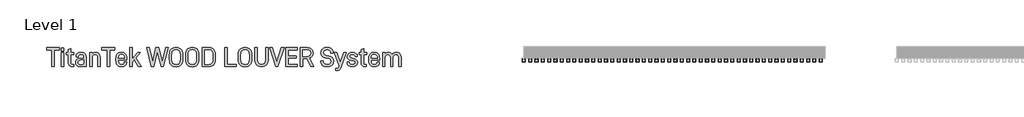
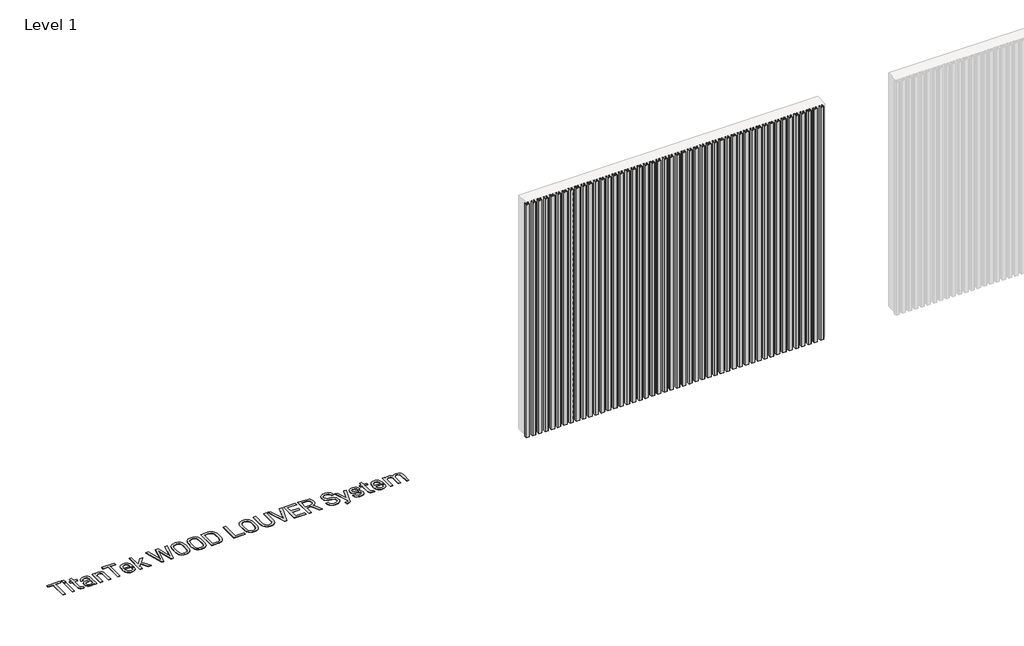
# One storey, part 30 of 33: 2 proxies.
"""IFC4 building model written with IfcOpenShell, lengths in millimetres."""

from ifc_helpers import new_model, si_unit, origin, origin_with_axes, place, context, project, spatial, polyline, outline, extrude, transform, mapped, element, save
from components import titantek_wood_louver_system_aluminum_slate_gray_186ec220

model = new_model("IFC4")

# Units and contexts
model_context = context("Model", 3, world=origin())
ifc_project = project(units=[si_unit("LENGTHUNIT", "METRE", prefix="MILLI")], contexts=[model_context])

# Site, building, storey
site = spatial("IfcSite", under=ifc_project)
building = spatial("IfcBuilding", under=site)
storey = spatial("IfcBuildingStorey", under=building, Name="Level 1", Elevation=0.0)

# Proxies
placement = place(None, origin())
element("IfcBuildingElementProxy", 1, Name="600mm Arial 2", ObjectType="600mm Arial 2", at=placement, inside=storey, context=model_context, shape_type="SweptSolid", body=[
    extrude(outline(polyline([(-9914.9924556, 117220.4128343), (-9914.9924556, 116952.9873502), (-9954.4439015, 116952.9873502), (-9954.4439015, 117220.4128343), (-10038.8787304, 117220.4128343), (-10038.8787304, 117257.3166776), (-9830.5576267, 117257.3166776), (-9830.5576267, 117220.4128343), (-9914.9924556, 117220.4128343)])), origin_with_axes(), (0.0, 0.0, 1.0), 5.0),
    extrude(outline(polyline([(-9763.1553408, 117253.0221475), (-9763.1553408, 117205.8551051), (-9802.6067867, 117205.8551051), (-9802.6067867, 117253.0221475), (-9763.1553408, 117253.0221475)])), origin_with_axes(), (0.0, 0.0, 1.0), 5.0),
    extrude(outline(polyline([(-9764.0288046, 117178.8505176), (-9764.0288046, 116952.9873502), (-9801.733323, 116952.9873502), (-9801.733323, 117178.8505176), (-9764.0288046, 117178.8505176)])), origin_with_axes(), (0.0, 0.0, 1.0), 5.0),
    extrude(outline(polyline([(-9648.294858, 117012.601251), (-9646.8208879, 117001.5191797), (-9642.3989777, 116993.6034145), (-9635.0291273, 116988.8539554), (-9624.7113368, 116987.2708023), (-9603.2386864, 116987.2708023), (-9603.2386864, 116952.9873502), (-9629.3698101, 116952.9873502), (-9653.1535001, 116956.9543314), (-9671.3688587, 116968.855275), (-9682.6692959, 116987.3981825), (-9686.4361083, 117011.2910554), (-9686.4361083, 117147.1146681), (-9720.2828285, 117147.1146681), (-9720.2828285, 117178.8505176), (-9686.4361083, 117178.8505176), (-9686.4361083, 117226.8910237), (-9648.294858, 117244.8698192), (-9648.294858, 117178.8505176), (-9599.3808881, 117178.8505176), (-9599.3808881, 117147.1146681), (-9648.294858, 117147.1146681), (-9648.294858, 117012.601251)])), origin_with_axes(), (0.0, 0.0, 1.0), 5.0),
    extrude(outline(polyline([(-9422.8684225, 117162.1091291), (-9413.2830677, 117151.3409589), (-9406.4363858, 117138.2526505), (-9400.9590402, 117105.1156196), (-9400.9590402, 116952.9873502), (-9438.2996154, 116952.9873502), (-9438.2996154, 116969.2920069), (-9456.7151427, 116956.8451485), (-9473.7476858, 116952.0410978), (-9493.9829293, 116950.4397476), (-9526.0281305, 116954.7160806), (-9550.1029751, 116967.5450794), (-9565.2248162, 116989.3270816), (-9570.2654299, 117018.5699199), (-9565.1338304, 117046.2114081), (-9549.7390318, 117067.4111012), (-9525.063681, 117080.6222403), (-9493.1094655, 117085.0259534), (-9438.7363472, 117085.0259534), (-9438.7363472, 117105.5523515), (-9441.6296959, 117124.441005), (-9450.3097419, 117138.1616647), (-9464.2305704, 117146.1866129), (-9483.7197302, 117148.8615956), (-9502.2262434, 117146.6051476), (-9515.819523, 117139.8358036), (-9524.1720201, 117129.4816187), (-9526.9561857, 117115.4516073), (-9526.9561857, 117109.8468816), (-9563.8600291, 117109.8468816), (-9563.8600291, 117116.2522824), (-9558.4008807, 117143.2932642), (-9542.0234354, 117164.2927885), (-9516.8203668, 117177.4493362), (-9484.1564621, 117181.8348521), (-9448.6719974, 117176.9034213), (-9434.5600987, 117170.7391329), (-9422.8684225, 117162.1091291)]), holes=[polyline([(-9450.6736851, 116994.5496669), (-9441.7206817, 117009.4531421), (-9438.7363472, 117031.0167784), (-9438.7363472, 117054.9642428), (-9488.8149354, 117054.9642428), (-9507.9538, 117052.7168933), (-9521.6244175, 117045.974845), (-9529.826788, 117034.7380979), (-9532.5609115, 117019.0066518), (-9529.8540837, 117003.0522906), (-9521.7336004, 116991.6563182), (-9508.1994616, 116984.8187348), (-9489.2516673, 116982.5395404), (-9466.104878, 116985.542072), (-9450.6736851, 116994.5496669)])]), origin_with_axes(), (0.0, 0.0, 1.0), 5.0),
    extrude(outline(polyline([(-9306.6977441, 117178.8505176), (-9306.6977441, 117160.4349903), (-9288.2822167, 117173.6825238), (-9271.1222935, 117179.4692211), (-9252.2518372, 117181.3981202), (-9219.9154813, 117175.9389718), (-9206.7907787, 117169.1150363), (-9195.6950595, 117159.5615265), (-9187.0650557, 117147.9790333), (-9180.9007673, 117134.1946835), (-9175.9693365, 117100.0204144), (-9175.9693365, 116952.9873502), (-9213.673855, 116952.9873502), (-9213.673855, 117095.7258843), (-9216.6763866, 117118.1083928), (-9225.6839815, 117133.8671346), (-9240.3781893, 117143.4752358), (-9259.567096, 117146.6779363), (-9278.7378056, 117143.4752358), (-9293.3774219, 117133.8671346), (-9303.0401146, 117117.453295), (-9306.2610122, 117095.7258843), (-9306.2610122, 116952.9873502), (-9343.9655306, 116952.9873502), (-9343.9655306, 117178.8505176), (-9306.6977441, 117178.8505176)])), origin_with_axes(), (0.0, 0.0, 1.0), 5.0),
    extrude(outline(polyline([(-9025.2240514, 117220.4128343), (-9025.2240514, 116952.9873502), (-9064.6754974, 116952.9873502), (-9064.6754974, 117220.4128343), (-9149.1103263, 117220.4128343), (-9149.1103263, 117257.3166776), (-8940.7892225, 117257.3166776), (-8940.7892225, 117220.4128343), (-9025.2240514, 117220.4128343)])), origin_with_axes(), (0.0, 0.0, 1.0), 5.0),
    extrude(outline(polyline([(-8884.5235994, 117047.2486463), (-8881.1025331, 117017.8329349), (-8870.8393341, 116998.8805913), (-8854.3527058, 116988.5900965), (-8832.2613519, 116985.1599316), (-8812.990558, 116987.7257314), (-8798.8513635, 116995.4231306), (-8790.1713175, 117007.1966941), (-8787.2779689, 117022.86445), (-8787.2779689, 117028.3963871), (-8750.3741256, 117028.3963871), (-8750.3741256, 117021.9909863), (-8756.0516399, 116992.8391337), (-8763.1485329, 116980.528754), (-8773.084183, 116969.7287387), (-8799.7976159, 116955.2619954), (-8834.3722226, 116950.4397476), (-8853.3222916, 116951.9387388), (-8870.2843206, 116956.4357123), (-8885.2583098, 116963.9306682), (-8898.2442591, 116974.4236064), (-8908.7371973, 116988.0237099), (-8916.2321532, 117004.8401617), (-8920.7291267, 117024.8729617), (-8922.2281179, 117048.1221101), (-8922.2281179, 117085.8266285), (-8920.7314014, 117108.5321367), (-8916.2412518, 117128.1714231), (-8908.7576691, 117144.7444879), (-8898.2806535, 117158.2513309), (-8885.4971476, 117168.5691214), (-8870.7301511, 117175.9389718), (-8853.979664, 117180.360882), (-8835.2456864, 117181.8348521), (-8816.8438069, 117180.360882), (-8800.2161506, 117175.9389718), (-8785.3627176, 117168.5691214), (-8772.2835079, 117158.2513309), (-8761.9657174, 117144.9082623), (-8754.595867, 117128.389789), (-8750.1739568, 117108.6959111), (-8748.6999867, 117085.8266285), (-8748.6999867, 117055.8377065), (-8884.5235994, 117055.8377065), (-8884.5235994, 117047.2486463)]), holes=[polyline([(-8871.2760659, 117133.4304027), (-8881.2117161, 117115.30603), (-8884.5235994, 117086.7000923), (-8786.4045051, 117086.2633604), (-8786.4045051, 117089.6844267), (-8789.6254027, 117116.9255774), (-8799.2880954, 117134.3038665), (-8814.9012599, 117143.5844188), (-8835.2456864, 117146.6779363), (-8855.60831, 117143.3660529), (-8871.2760659, 117133.4304027)])]), origin_with_axes(), (0.0, 0.0, 1.0), 5.0),
    extrude(outline(polyline([(-8663.391694, 117020.3168474), (-8663.391694, 116952.9873502), (-8701.0962125, 116952.9873502), (-8701.0962125, 117257.3166776), (-8663.391694, 117257.3166776), (-8663.391694, 117070.8321675), (-8575.0990669, 117178.8505176), (-8528.3687564, 117178.8505176), (-8602.5403863, 117091.8680861), (-8517.6688255, 116952.9873502), (-8563.5256722, 116952.9873502), (-8627.7980463, 117062.6798392), (-8663.391694, 117020.3168474)])), origin_with_axes(), (0.0, 0.0, 1.0), 5.0),
    extrude(outline(polyline([(-8120.6067636, 117257.3166776), (-8082.4655133, 117257.3166776), (-8158.7480139, 116952.9873502), (-8193.4681979, 116952.9873502), (-8255.6297012, 117196.028638), (-8316.0442771, 116952.9873502), (-8350.7644611, 116952.9873502), (-8428.7211005, 117257.3166776), (-8389.3424432, 117257.3166776), (-8332.7128769, 117026.7222483), (-8278.3397587, 117257.3166776), (-8231.6094482, 117257.3166776), (-8175.0526705, 117026.7222483), (-8120.6067636, 117257.3166776)])), origin_with_axes(), (0.0, 0.0, 1.0), 5.0),
    extrude(outline(polyline([(-8033.4059661, 116977.881067), (-8045.9529089, 116994.2039208), (-8054.9150109, 117014.4937558), (-8060.2922721, 117038.7505719), (-8062.0846925, 117066.9743693), (-8062.0846925, 117143.6936018), (-8060.2649764, 117171.7854697), (-8054.8058279, 117196.0104408), (-8045.7072472, 117216.3685152), (-8032.9692342, 117232.8596927), (-8017.3105769, 117245.2474103), (-7999.0861197, 117254.09578), (-7978.2958628, 117259.4048019), (-7954.9398061, 117261.1744758), (-7931.779369, 117259.4048019), (-7911.1392386, 117254.09578), (-7893.0194152, 117245.2474103), (-7877.4198985, 117232.8596927), (-7864.8411107, 117216.5049939), (-7855.8562623, 117196.1924124), (-7850.4653532, 117171.9219484), (-7848.6683835, 117143.6936018), (-7848.6683835, 117066.9743693), (-7850.4880997, 117038.9143464), (-7855.9472481, 117014.7121217), (-7865.0458288, 116994.3676953), (-7877.7838418, 116977.881067), (-7893.5789779, 116965.4933494), (-7911.7761393, 116956.6449797), (-7932.375326, 116951.3359578), (-7955.376538, 116949.5662839), (-7978.7325947, 116951.3359578), (-7999.5228516, 116956.6449797), (-8017.7473087, 116965.4933494), (-8033.4059661, 116977.881067)]), holes=[polyline([(-7888.5565613, 117142.4561948), (-7892.7055141, 117178.2500113), (-7905.1523725, 117203.8170231), (-7914.4875163, 117212.7654772), (-7925.8971365, 117219.1572301), (-7954.9398061, 117224.2706325), (-7984.1098559, 117219.5575677), (-8005.5279148, 117205.4183733), (-8012.8522723, 117194.2498655), (-8018.0839562, 117180.0333331), (-8022.2693033, 117142.4561948), (-8022.2693033, 117065.3002304), (-8017.9747732, 117029.0696821), (-8012.6066106, 117015.6083319), (-8005.091183, 117005.2495978), (-7984.2190388, 116991.4379523), (-7954.9398061, 116986.8340705), (-7925.8971365, 116991.7382055), (-7914.4875163, 116997.8683742), (-7905.1523725, 117006.4506105), (-7892.7055141, 117030.9712854), (-7888.5565613, 117065.3002304), (-7888.5565613, 117142.4561948)])]), origin_with_axes(), (0.0, 0.0, 1.0), 5.0),
    extrude(outline(polyline([(-7772.5314602, 116977.881067), (-7785.078403, 116994.2039208), (-7794.040505, 117014.4937558), (-7799.4177662, 117038.7505719), (-7801.2101866, 117066.9743693), (-7801.2101866, 117143.6936018), (-7799.3904704, 117171.7854697), (-7793.931322, 117196.0104408), (-7784.8327413, 117216.3685152), (-7772.0947283, 117232.8596927), (-7756.4360709, 117245.2474103), (-7738.2116138, 117254.09578), (-7717.4213569, 117259.4048019), (-7694.0653002, 117261.1744758), (-7670.904863, 117259.4048019), (-7650.2647327, 117254.09578), (-7632.1449092, 117245.2474103), (-7616.5453926, 117232.8596927), (-7603.9666048, 117216.5049939), (-7594.9817563, 117196.1924124), (-7589.5908473, 117171.9219484), (-7587.7938776, 117143.6936018), (-7587.7938776, 117066.9743693), (-7589.6135937, 117038.9143464), (-7595.0727422, 117014.7121217), (-7604.1713229, 116994.3676953), (-7616.9093358, 116977.881067), (-7632.7044719, 116965.4933494), (-7650.9016333, 116956.6449797), (-7671.5008201, 116951.3359578), (-7694.5020321, 116949.5662839), (-7717.8580887, 116951.3359578), (-7738.6483457, 116956.6449797), (-7756.8728028, 116965.4933494), (-7772.5314602, 116977.881067)]), holes=[polyline([(-7627.6820554, 117142.4561948), (-7631.8310082, 117178.2500113), (-7644.2778666, 117203.8170231), (-7653.6130104, 117212.7654772), (-7665.0226306, 117219.1572301), (-7694.0653002, 117224.2706325), (-7723.2353499, 117219.5575677), (-7744.6534089, 117205.4183733), (-7751.9777664, 117194.2498655), (-7757.2094503, 117180.0333331), (-7761.3947974, 117142.4561948), (-7761.3947974, 117065.3002304), (-7757.1002673, 117029.0696821), (-7751.7321047, 117015.6083319), (-7744.216677, 117005.2495978), (-7723.3445329, 116991.4379523), (-7694.0653002, 116986.8340705), (-7665.0226306, 116991.7382055), (-7653.6130104, 116997.8683742), (-7644.2778666, 117006.4506105), (-7631.8310082, 117030.9712854), (-7627.6820554, 117065.3002304), (-7627.6820554, 117142.4561948)])]), origin_with_axes(), (0.0, 0.0, 1.0), 5.0),
    extrude(outline(polyline([(-7428.8962642, 117257.3166776), (-7405.7085313, 117255.5470037), (-7384.9865137, 117250.2379818), (-7366.7302115, 117241.3896121), (-7350.9396247, 117229.0018945), (-7338.3608369, 117212.6471956), (-7329.3759884, 117192.3346142), (-7323.9850794, 117168.0641502), (-7322.1881097, 117139.8358036), (-7322.1881097, 117070.3954356), (-7323.9850794, 117042.1716383), (-7329.3759884, 117017.9148221), (-7338.3608369, 116997.6249872), (-7350.9396247, 116981.3021334), (-7366.7302115, 116968.9144158), (-7384.9865137, 116960.066046), (-7405.7085313, 116954.7570242), (-7428.8962642, 116952.9873502), (-7534.3670117, 116952.9873502), (-7534.3670117, 117257.3166776), (-7428.8962642, 117257.3166776)]), holes=[polyline([(-7428.532321, 116989.8184049), (-7399.6488765, 116994.7498357), (-7388.3018091, 117000.9141241), (-7379.0178448, 117009.5441279), (-7366.6392257, 117034.2012816), (-7362.5130194, 117068.7212968), (-7362.5130194, 117138.5983966), (-7366.7893523, 117176.0663519), (-7372.1347685, 117190.1464056), (-7379.6183511, 117201.1238432), (-7400.2175378, 117215.5905865), (-7428.532321, 117220.4128343), (-7494.042102, 117220.4128343), (-7494.042102, 116989.8184049), (-7428.532321, 116989.8184049)])]), origin_with_axes(), (0.0, 0.0, 1.0), 5.0),
    extrude(outline(polyline([(-7135.7763882, 117257.3166776), (-7135.7763882, 116989.8184049), (-6988.3793808, 116989.8184049), (-6988.3793808, 116952.9873502), (-7175.664566, 116952.9873502), (-7175.664566, 117257.3166776), (-7135.7763882, 117257.3166776)])), origin_with_axes(), (0.0, 0.0, 1.0), 5.0),
    extrude(outline(polyline([(-6924.6893159, 116977.881067), (-6937.2362587, 116994.2039208), (-6946.1983607, 117014.4937558), (-6951.5756219, 117038.7505719), (-6953.3680423, 117066.9743693), (-6953.3680423, 117143.6936018), (-6951.5483262, 117171.7854697), (-6946.0891777, 117196.0104408), (-6936.990597, 117216.3685152), (-6924.252584, 117232.8596927), (-6908.5939267, 117245.2474103), (-6890.3694695, 117254.09578), (-6869.5792126, 117259.4048019), (-6846.2231559, 117261.1744758), (-6823.0627188, 117259.4048019), (-6802.4225884, 117254.09578), (-6784.302765, 117245.2474103), (-6768.7032483, 117232.8596927), (-6756.1244605, 117216.5049939), (-6747.1396121, 117196.1924124), (-6741.748703, 117171.9219484), (-6739.9517333, 117143.6936018), (-6739.9517333, 117066.9743693), (-6741.7714495, 117038.9143464), (-6747.2305979, 117014.7121217), (-6756.3291786, 116994.3676953), (-6769.0671916, 116977.881067), (-6784.8623277, 116965.4933494), (-6803.0594891, 116956.6449797), (-6823.6586758, 116951.3359578), (-6846.6598878, 116949.5662839), (-6870.0159445, 116951.3359578), (-6890.8062014, 116956.6449797), (-6909.0306585, 116965.4933494), (-6924.6893159, 116977.881067)]), holes=[polyline([(-6779.8399111, 117142.4561948), (-6783.9888639, 117178.2500113), (-6796.4357223, 117203.8170231), (-6805.7708661, 117212.7654772), (-6817.1804863, 117219.1572301), (-6846.2231559, 117224.2706325), (-6875.3932057, 117219.5575677), (-6896.8112646, 117205.4183733), (-6904.1356221, 117194.2498655), (-6909.367306, 117180.0333331), (-6913.5526531, 117142.4561948), (-6913.5526531, 117065.3002304), (-6909.258123, 117029.0696821), (-6903.8899604, 117015.6083319), (-6896.3745328, 117005.2495978), (-6875.5023886, 116991.4379523), (-6846.2231559, 116986.8340705), (-6817.1804863, 116991.7382055), (-6805.7708661, 116997.8683742), (-6796.4357223, 117006.4506105), (-6783.9888639, 117030.9712854), (-6779.8399111, 117065.3002304), (-6779.8399111, 117142.4561948)])]), origin_with_axes(), (0.0, 0.0, 1.0), 5.0),
    extrude(outline(polyline([(-6634.6265631, 116963.2505493), (-6655.9536363, 116978.6999393), (-6672.7678134, 117000.1543926), (-6683.0856039, 117025.5576299), (-6686.5248674, 117053.7268358), (-6686.5248674, 117257.3166776), (-6646.1999578, 117257.3166776), (-6646.1999578, 117056.2744384), (-6641.7052589, 117027.4683319), (-6628.2211623, 117005.2495978), (-6607.6765671, 116991.4379523), (-6580.2534448, 116986.8340705), (-6553.212463, 116991.4379523), (-6532.2129387, 117005.2495978), (-6518.7288421, 117027.6503035), (-6514.2341432, 117056.2744384), (-6514.2341432, 117257.3166776), (-6474.3459654, 117257.3166776), (-6474.3459654, 117053.7268358), (-6477.7852289, 117025.230081), (-6488.1030194, 116999.7176607), (-6504.3712817, 116978.8091223), (-6525.8075379, 116963.2505493), (-6551.6020142, 116953.642448), (-6580.2170505, 116950.4397476), (-6608.8320868, 116953.642448), (-6634.6265631, 116963.2505493)])), origin_with_axes(), (0.0, 0.0, 1.0), 5.0),
    extrude(outline(polyline([(-6260.7112905, 117257.3166776), (-6219.1489739, 117257.3166776), (-6318.5782638, 116952.9873502), (-6350.3141133, 116952.9873502), (-6449.3066713, 117257.3166776), (-6407.7443547, 117257.3166776), (-6334.0094567, 117022.86445), (-6260.7112905, 117257.3166776)])), origin_with_axes(), (0.0, 0.0, 1.0), 5.0),
    extrude(outline(polyline([(-6152.8385177, 117126.1515382), (-6025.9679084, 117126.1515382), (-6025.9679084, 117089.3204835), (-6152.8385177, 117089.3204835), (-6152.8385177, 116989.8184049), (-6004.5680465, 116989.8184049), (-6004.5680465, 116952.9873502), (-6192.7266955, 116952.9873502), (-6192.7266955, 117257.3166776), (-6004.5680465, 117257.3166776), (-6004.5680465, 117220.4128343), (-6152.8385177, 117220.4128343), (-6152.8385177, 117126.1515382)])), origin_with_axes(), (0.0, 0.0, 1.0), 5.0),
    extrude(outline(polyline([(-5919.9148517, 117082.842294), (-5919.9148517, 116952.9873502), (-5959.8030295, 116952.9873502), (-5959.8030295, 117257.3166776), (-5845.8160104, 117257.3166776), (-5807.3290141, 117251.6391632), (-5791.3746528, 117244.5422703), (-5777.6130495, 117234.6066202), (-5766.5628232, 117221.8777058), (-5758.6698045, 117206.8377519), (-5753.9339932, 117189.4867585), (-5752.3553894, 117169.8247256), (-5756.7409053, 117139.8540007), (-5769.897453, 117115.0148754), (-5788.9862754, 117097.9641352), (-5813.6434291, 117087.1368241), (-5742.9656542, 116952.9873502), (-5788.8225009, 116952.9873502), (-5855.6424776, 117082.842294), (-5919.9148517, 117082.842294)]), holes=[polyline([(-5848.363613, 117118.4359417), (-5824.0340082, 117121.7478251), (-5806.8012964, 117131.6834753), (-5795.8829995, 117147.5695972), (-5792.2435672, 117169.4607823), (-5795.7738166, 117191.6158263), (-5806.3645645, 117207.5656383), (-5823.9248253, 117217.2010353), (-5848.363613, 117220.4128343), (-5919.9148517, 117220.4128343), (-5919.9148517, 117118.4359417), (-5848.363613, 117118.4359417)])]), origin_with_axes(), (0.0, 0.0, 1.0), 5.0),
    extrude(outline(polyline([(-5600.1543314, 116973.1498051), (-5612.3418803, 116986.7931268), (-5621.5359961, 117003.3388959), (-5627.7366788, 117022.7871121), (-5630.9439285, 117045.1377756), (-5591.5652713, 117045.1377756), (-5585.9650948, 117019.4388344), (-5573.0223638, 117001.0824478), (-5552.7370781, 116990.0686159), (-5525.1092378, 116986.3973386), (-5497.0674121, 116989.7274191), (-5477.1415203, 116999.7176607), (-5465.2405768, 117015.5855855), (-5461.2735956, 117037.4221792), (-5464.3853102, 117057.020522), (-5473.720454, 117071.2688994), (-5489.9705191, 117081.0225779), (-5513.0991113, 117087.1368241), (-5546.5818883, 117092.7415498), (-5579.354976, 117102.3678482), (-5604.0121297, 117118.4359417), (-5612.9924288, 117129.313295), (-5619.4069282, 117142.2196317), (-5624.5385277, 117174.1192557), (-5622.7961495, 117193.5902184), (-5617.5690149, 117210.8047331), (-5608.8571239, 117225.7627997), (-5596.6604764, 117238.4644184), (-5581.925325, 117248.4000685), (-5565.0884014, 117255.4969615), (-5525.1092378, 117261.1744758), (-5487.9506342, 117255.8063132), (-5472.0190194, 117249.0961099), (-5457.8525292, 117239.7018254), (-5445.4147694, 117226.8455308), (-5435.9795412, 117210.9867047), (-5429.5468447, 117192.1253469), (-5426.1166797, 117170.2614574), (-5465.5681257, 117170.2614574), (-5470.4358664, 117194.4636821), (-5482.0547539, 117211.7509854), (-5500.4247883, 117222.1233674), (-5525.5459697, 117225.5808281), (-5551.4587275, 117222.2507476), (-5570.0926208, 117212.260506), (-5581.6660154, 117196.6473415), (-5585.5238137, 117176.302915), (-5582.630465, 117158.5060912), (-5573.950419, 117145.4405293), (-5558.5192261, 117135.9052167), (-5536.2459006, 117129.5726045), (-5501.9624485, 117123.6039356), (-5467.8973623, 117113.613694), (-5442.8580682, 117096.5993481), (-5433.6548539, 117085.285263), (-5427.0811293, 117071.9421944), (-5421.8221497, 117039.1691067), (-5423.6191193, 117019.1567784), (-5429.0100284, 117001.555574), (-5437.9948769, 116986.3654935), (-5450.5736647, 116973.586537), (-5465.9593646, 116963.4598166), (-5483.87447, 116956.226445), (-5504.3189809, 116951.886422), (-5527.2928972, 116950.4397476), (-5568.2183132, 116956.117262), (-5585.309997, 116963.2141549), (-5600.1543314, 116973.1498051)])), origin_with_axes(), (0.0, 0.0, 1.0), 5.0),
    extrude(outline(polyline([(-5258.7755834, 117178.8505176), (-5219.3241375, 117178.8505176), (-5305.0691621, 116932.3881635), (-5314.6044746, 116912.5714548), (-5327.7792195, 116898.5414433), (-5344.5933966, 116890.5164951), (-5365.9204698, 116887.8415124), (-5383.0258015, 116887.8415124), (-5383.0258015, 116922.9984282), (-5368.0313405, 116922.9984282), (-5355.2933275, 116924.3996097), (-5347.0682106, 116928.603154), (-5340.6446126, 116935.6454554), (-5335.0580841, 116947.4554132), (-5331.6370177, 116959.3927511), (-5407.4827865, 117178.8505176), (-5366.7939336, 117178.8505176), (-5312.7847585, 117014.7121217), (-5258.7755834, 117178.8505176)])), origin_with_axes(), (0.0, 0.0, 1.0), 5.0),
    extrude(outline(polyline([(-5182.1291396, 116968.4185431), (-5192.2558599, 116978.5953056), (-5199.4892316, 116990.273334), (-5205.2759289, 117018.1331881), (-5205.2759289, 117024.1746457), (-5168.4448742, 117024.1746457), (-5168.4448742, 117018.5699199), (-5165.3331596, 117004.3215426), (-5155.9980158, 116993.3122599), (-5140.8761747, 116986.215367), (-5121.2778319, 116983.849736), (-5100.7150395, 116986.106184), (-5085.3202409, 116992.875528), (-5076.312646, 117003.5572618), (-5073.3101144, 117017.6964562), (-5075.3481965, 117029.9431458), (-5081.4624427, 117038.2956429), (-5092.7810771, 117044.391692), (-5110.5779009, 117048.9955738), (-5137.5824885, 117053.7268358), (-5166.170229, 117061.751784), (-5185.9869378, 117073.8892906), (-5197.8878814, 117091.3403684), (-5201.8548626, 117115.4516073), (-5196.1773482, 117142.7655466), (-5189.0804553, 117154.0887302), (-5179.1448051, 117163.8560566), (-5153.9781309, 117177.3401532), (-5122.1512956, 117181.8348521), (-5088.0862094, 117177.4493362), (-5062.1734516, 117164.2927885), (-5044.8133596, 117143.9119677), (-5039.0266623, 117117.9992099), (-5039.0266623, 117111.1570772), (-5075.857717, 117111.1570772), (-5075.857717, 117116.6890143), (-5078.7510656, 117129.9001534), (-5087.4311116, 117140.2725354), (-5102.1162209, 117147.0418795), (-5121.2778319, 117149.2983275), (-5140.348457, 117147.0418795), (-5153.8871451, 117140.2725354), (-5162.2396422, 117130.300491), (-5165.0238079, 117116.6890143), (-5163.0949088, 117105.7889146), (-5157.3082114, 117097.836755), (-5146.8084493, 117091.631523), (-5130.7403558, 117087.573556), (-5102.4255726, 117082.4055622), (-5073.4011002, 117074.0712622), (-5053.1476595, 117061.8791641), (-5040.5916182, 117043.9549601), (-5036.4062711, 117019.4433837), (-5037.9075369, 117003.8620642), (-5042.4113343, 116990.164151), (-5049.9176634, 116978.3496439), (-5060.4265241, 116968.4185431), (-5087.7586605, 116954.9344465), (-5122.5880275, 116950.4397476), (-5155.8888329, 116954.9344465), (-5182.1291396, 116968.4185431)])), origin_with_axes(), (0.0, 0.0, 1.0), 5.0),
    extrude(outline(polyline([(-4938.5783313, 117012.601251), (-4937.1043613, 117001.5191797), (-4932.682451, 116993.6034145), (-4925.3126007, 116988.8539554), (-4914.9948101, 116987.2708023), (-4893.5221597, 116987.2708023), (-4893.5221597, 116952.9873502), (-4919.6532835, 116952.9873502), (-4943.4369734, 116956.9543314), (-4961.652332, 116968.855275), (-4972.9527692, 116987.3981825), (-4976.7195816, 117011.2910554), (-4976.7195816, 117147.1146681), (-5010.5663019, 117147.1146681), (-5010.5663019, 117178.8505176), (-4976.7195816, 117178.8505176), (-4976.7195816, 117226.8910237), (-4938.5783313, 117244.8698192), (-4938.5783313, 117178.8505176), (-4889.6643615, 117178.8505176), (-4889.6643615, 117147.1146681), (-4938.5783313, 117147.1146681), (-4938.5783313, 117012.601251)])), origin_with_axes(), (0.0, 0.0, 1.0), 5.0),
    extrude(outline(polyline([(-4817.6763909, 117047.2486463), (-4814.2553246, 117017.8329349), (-4803.9921256, 116998.8805913), (-4787.5054973, 116988.5900965), (-4765.4141434, 116985.1599316), (-4746.1433495, 116987.7257314), (-4732.004155, 116995.4231306), (-4723.324109, 117007.1966941), (-4720.4307604, 117022.86445), (-4720.4307604, 117028.3963871), (-4683.5269171, 117028.3963871), (-4683.5269171, 117021.9909863), (-4689.2044314, 116992.8391337), (-4696.3013244, 116980.528754), (-4706.2369745, 116969.7287387), (-4732.9504074, 116955.2619954), (-4767.5250141, 116950.4397476), (-4786.4750831, 116951.9387388), (-4803.4371121, 116956.4357123), (-4818.4111013, 116963.9306682), (-4831.3970506, 116974.4236064), (-4841.8899888, 116988.0237099), (-4849.3849447, 117004.8401617), (-4853.8819182, 117024.8729617), (-4855.3809094, 117048.1221101), (-4855.3809094, 117085.8266285), (-4853.8841929, 117108.5321367), (-4849.3940433, 117128.1714231), (-4841.9104606, 117144.7444879), (-4831.433445, 117158.2513309), (-4818.6499391, 117168.5691214), (-4803.8829426, 117175.9389718), (-4787.1324555, 117180.360882), (-4768.3984779, 117181.8348521), (-4749.9965984, 117180.360882), (-4733.3689421, 117175.9389718), (-4718.5155091, 117168.5691214), (-4705.4362994, 117158.2513309), (-4695.1185089, 117144.9082623), (-4687.7486585, 117128.389789), (-4683.3267483, 117108.6959111), (-4681.8527782, 117085.8266285), (-4681.8527782, 117055.8377065), (-4817.6763909, 117055.8377065), (-4817.6763909, 117047.2486463)]), holes=[polyline([(-4804.4288574, 117133.4304027), (-4814.3645076, 117115.30603), (-4817.6763909, 117086.7000923), (-4719.5572966, 117086.2633604), (-4719.5572966, 117089.6844267), (-4722.7781942, 117116.9255774), (-4732.4408869, 117134.3038665), (-4748.0540514, 117143.5844188), (-4768.3984779, 117146.6779363), (-4788.7611015, 117143.3660529), (-4804.4288574, 117133.4304027)])]), origin_with_axes(), (0.0, 0.0, 1.0), 5.0),
    extrude(outline(polyline([(-4596.9812174, 117178.8505176), (-4596.9812174, 117159.9982584), (-4578.5656901, 117173.3185806), (-4561.6241328, 117179.3782353), (-4542.5353105, 117181.3981202), (-4520.8988856, 117178.9415034), (-4502.2831894, 117171.5716531), (-4490.1638799, 117162.1455234), (-4479.573132, 117149.2983275), (-4467.1217243, 117163.3419868), (-4452.0408268, 117173.373172), (-4434.3304395, 117179.3918832), (-4413.9905623, 117181.3981202), (-4381.5086292, 117175.9389718), (-4368.2565464, 117169.1150363), (-4356.9970528, 117159.5615265), (-4347.9849086, 117147.9790333), (-4341.5476627, 117134.1946835), (-4336.3978661, 117100.0204144), (-4336.3978661, 116952.9873502), (-4374.1023845, 116952.9873502), (-4374.1023845, 117095.7258843), (-4377.1049161, 117118.1083928), (-4386.112511, 117133.8671346), (-4400.2517054, 117143.4752358), (-4419.5224994, 117146.6779363), (-4439.2664195, 117143.4752358), (-4453.8059515, 117133.8671346), (-4463.1410953, 117117.7626468), (-4466.2528099, 117096.9632913), (-4466.2528099, 116952.9873502), (-4504.3940602, 116952.9873502), (-4504.3940602, 117095.7258843), (-4507.3965918, 117118.1083928), (-4516.4041867, 117133.8671346), (-4530.5433811, 117143.4752358), (-4549.814175, 117146.6779363), (-4569.0121803, 117143.4752358), (-4583.6608953, 117133.8671346), (-4593.323588, 117117.453295), (-4596.5444855, 117095.7258843), (-4596.5444855, 116952.9873502), (-4634.249004, 116952.9873502), (-4634.249004, 117178.8505176), (-4596.9812174, 117178.8505176)])), origin_with_axes(), (0.0, 0.0, 1.0), 5.0),
])
titantek_wood_louver_system_aluminum_slate_gray_shape = titantek_wood_louver_system_aluminum_slate_gray_186ec220(model_context)
element("IfcBuildingElementProxy", 2, Name="TitanTek WOOD LOUVER System : Aluminum Slate Gray", ObjectType="TitanTek WOOD LOUVER System : Aluminum Slate Gray", at=placement, inside=storey, context=model_context, shape_type="MappedRepresentation", body=[
    mapped(titantek_wood_louver_system_aluminum_slate_gray_shape, transform((-2360.5897817, 117078.6095025, 0.0), x_axis=(1.0, 0.0, 0.0), y_axis=(0.0, 1.0, 0.0), z_axis=(0.0, 0.0, 1.0))),
])

save(model, "model.ifc")
